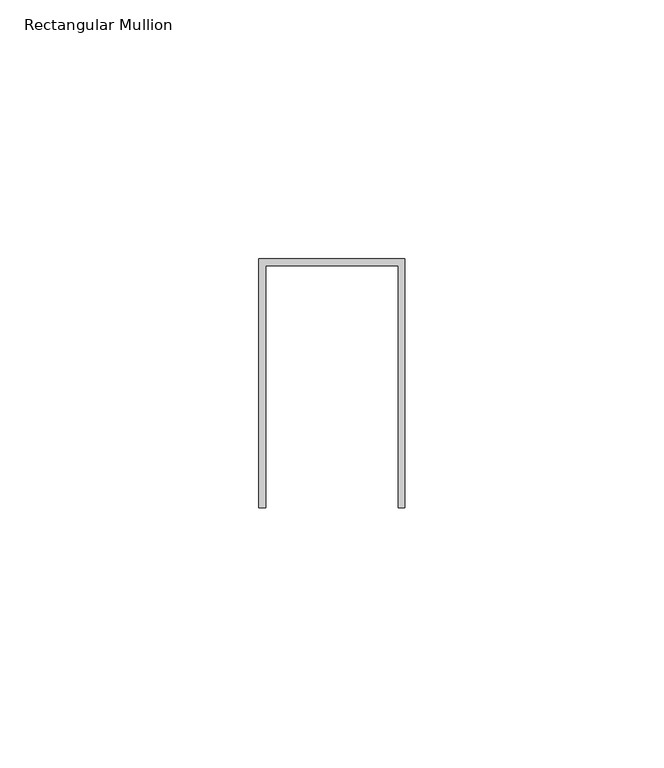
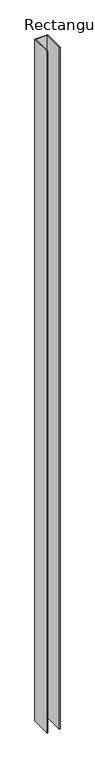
"""IFC4 building model written with IfcOpenShell, lengths in millimetres: member geometry, Rectangular Mullion : Danpal_TP_Interal-Ver-Mullion."""

from ifc_helpers import new_model, si_unit, frame, origin, place, context, project, spatial, polyline, outline, extrude, source, transform, mapped, element, save


def rectangular_mullion_3286c803(model_context):
    return source(origin(), model_context, "Body", "SweptSolid", [
        extrude(outline(polyline([(12.3125928, 62.8367315), (-13.3125928, 62.8367315), (-13.3125928, 16.0043433), (-14.6380334, 16.0043036), (-14.6380334, 64.1621721), (13.6380334, 64.1621721), (13.6380334, 16.0044958), (12.3125928, 16.0044958), (12.3125928, 62.8367315)])), frame((0.0, 0.0, -1607.8985541), z_axis=(0.0, 0.0, 1.0), x_axis=(1.0, 0.0, 0.0)), (0.0, 0.0, 1.0), 1607.8985541),
    ])


if __name__ == "__main__":
    model = new_model("IFC4")
    model_context = context("Model", 3, world=origin())
    ifc_project = project(units=[si_unit("LENGTHUNIT", "METRE", prefix="MILLI")], contexts=[model_context])
    site = spatial("IfcSite", under=ifc_project)
    building = spatial("IfcBuilding", under=site)
    placement = place(None, origin())
    rectangular_mullion_shape = rectangular_mullion_3286c803(model_context)
    element("IfcMember", 1, ObjectType="Rectangular Mullion : Danpal_TP_Interal-Ver-Mullion", at=placement, inside=building, context=model_context, shape_type="MappedRepresentation", body=[
        mapped(rectangular_mullion_shape, transform((0.0, 0.0, 0.0), x_axis=(1.0, 0.0, 0.0), y_axis=(0.0, 1.0, 0.0), z_axis=(0.0, 0.0, 1.0))),
    ])
    save(model, "model.ifc")
